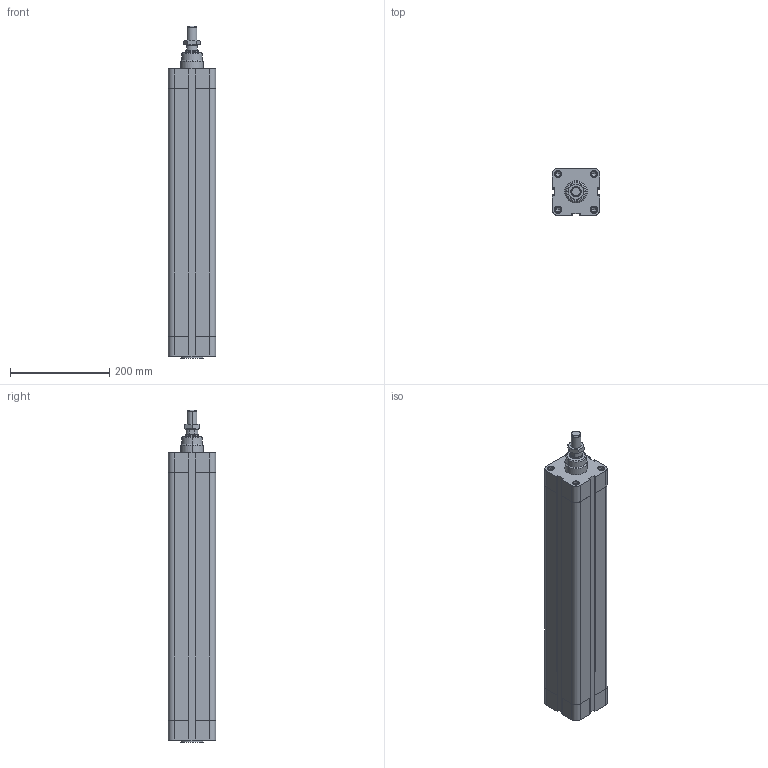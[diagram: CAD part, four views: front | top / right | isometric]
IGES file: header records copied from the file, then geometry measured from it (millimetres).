
Global section: file name: No Iges File Name specified; native system: AutoDesk Inventor R6.1; preprocessor: AutoDesk Inventor Iges Exporter R6.1; author: No Author specified; organization: No Organization specified; date: 20040107.171343; units: millimetre
Bounding box: 95.5 x 95.5 x 668 mm (x, y, z)
Volume: 5123742.4 mm3; surface area: 354146 mm2
Topology: 3 solids, 3 shells, 244 faces, 570 edges, 356 vertices
Faces by surface type: plane 83, bspline 67, cylinder 34, revolution 34, cone 24, torus 2
